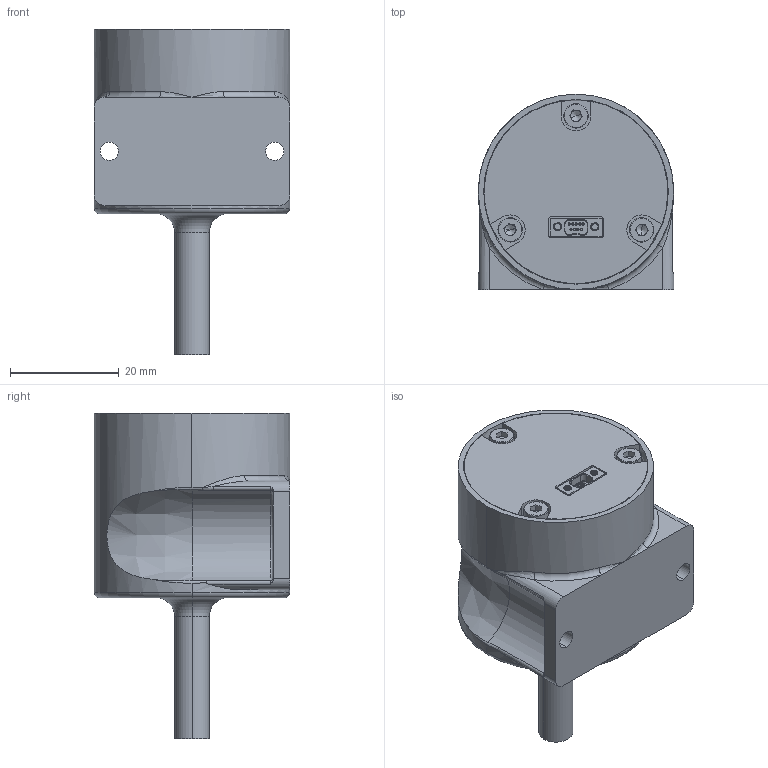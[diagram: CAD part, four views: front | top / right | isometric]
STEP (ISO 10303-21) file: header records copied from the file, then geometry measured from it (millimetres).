
FILE_DESCRIPTION (( 'STEP AP214' ), '1' );
FILE_NAME ('Garnet Filled.STEP', '2026-07-16T14:22:40', ( '' ), ( '' ), 'SwSTEP 2.0', 'SolidWorks 2026', '' );
FILE_SCHEMA (( 'AUTOMOTIVE_DESIGN' ));
Length unit declared in the file: millimetre
Products named in the file (1): Garnet Filled
Bounding box: 36 x 36 x 60 mm (x, y, z)
Volume: 34170 mm3; surface area: 8440.8 mm2
Topology: 1 solids, 73 shells, 701 faces, 1802 edges, 1129 vertices
Faces by surface type: cone 294, cylinder 256, plane 109, torus 24, bspline 18
Entity records: 27143 total; most frequent: CARTESIAN_POINT 9417, DIRECTION 4048, ORIENTED_EDGE 3588, EDGE_CURVE 1794, AXIS2_PLACEMENT_3D 1664, VERTEX_POINT 1129, CIRCLE 980, EDGE_LOOP 739
